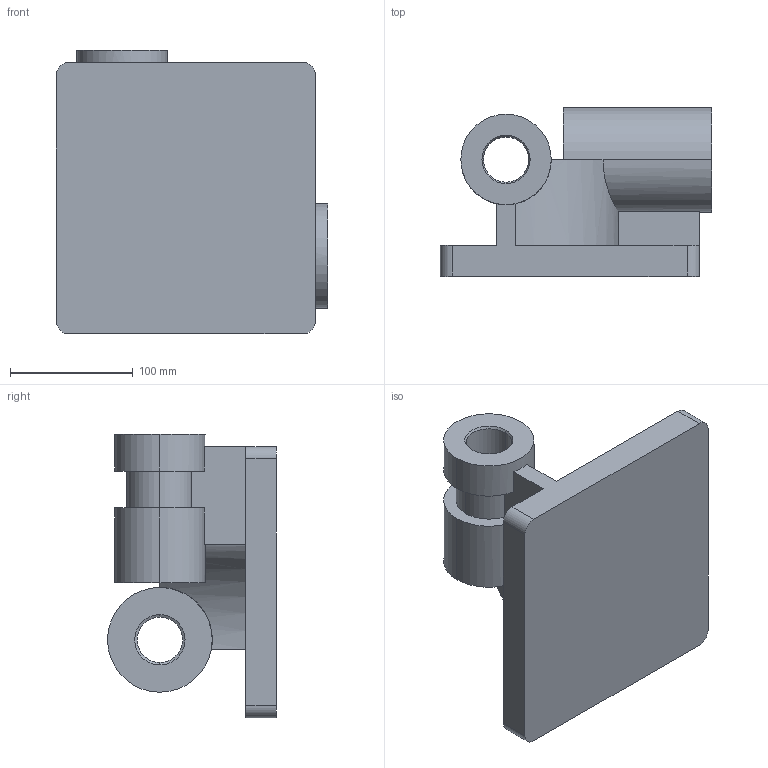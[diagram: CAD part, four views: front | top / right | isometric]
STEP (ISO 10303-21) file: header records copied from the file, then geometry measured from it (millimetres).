
FILE_DESCRIPTION (( 'STEP AP203' ), '1' );
FILE_NAME ('CSWP-Sample - Q4.STEP', '2019-10-03T02:12:00', ( '' ), ( '' ), 'SwSTEP 2.0', 'SolidWorks 2019', '' );
FILE_SCHEMA (( 'CONFIG_CONTROL_DESIGN' ));
Length unit declared in the file: millimetre
Products named in the file (1): CSWP-Sample - Q4
Bounding box: 221 x 137.67 x 231 mm (x, y, z)
Volume: 1715115.3 mm3; surface area: 253729.2 mm2
Topology: 1 solids, 1 shells, 66 faces, 174 edges, 112 vertices
Faces by surface type: cylinder 30, plane 28, cone 8
Entity records: 2263 total; most frequent: CARTESIAN_POINT 487, DIRECTION 374, ORIENTED_EDGE 348, EDGE_CURVE 174, AXIS2_PLACEMENT_3D 137, VERTEX_POINT 112, VECTOR 100, LINE 100
